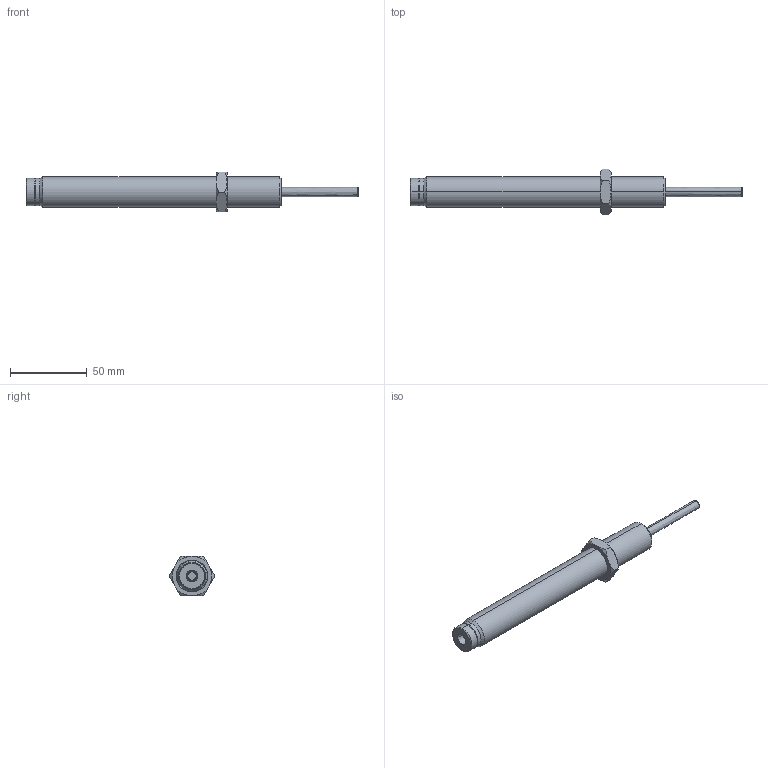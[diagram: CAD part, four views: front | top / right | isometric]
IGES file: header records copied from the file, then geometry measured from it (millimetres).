
Start section: SolidWorks IGES file using analytic representation for surfaces
Global section: file name: D:\IGS跡宒\AC2050-N.IGS,1; native system: 5HSolidWorks 2013; preprocessor: SolidWorks 2013; author: Administrator; date: 160406.152221; units: inch
Bounding box: 217 x 30.02 x 26 mm (x, y, z)
Surface area: 15760.7 mm2 (no closed solid volume)
Topology: 0 solids, 0 shells, 68 faces, 944 edges, 944 vertices
Faces by surface type: revolution 54, bspline 14
